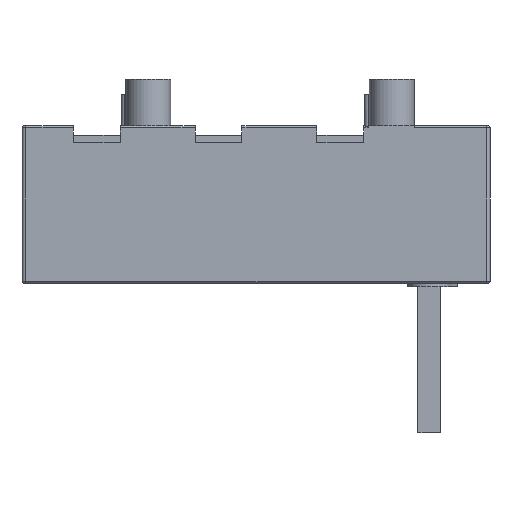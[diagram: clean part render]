
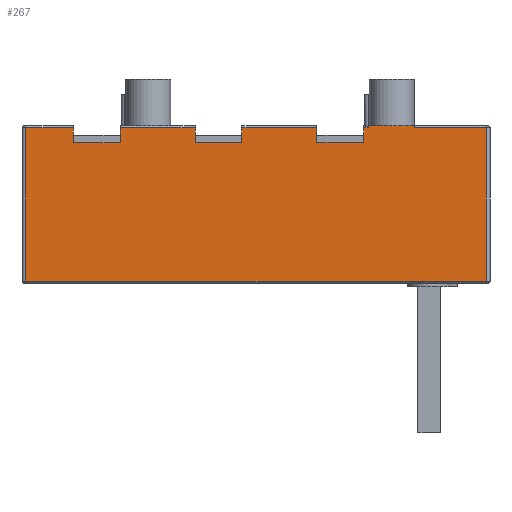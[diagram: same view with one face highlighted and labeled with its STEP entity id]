
A CAD part, front view. The second image highlights one B-rep face of the part: STEP entity #267.
In plain terms, the highlighted planar face has unit normal (0, -1, 0).
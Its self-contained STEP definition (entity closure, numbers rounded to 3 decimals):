
#267=ADVANCED_FACE('',(#575),#467,.T.);
#467=PLANE('',#3609);
#575=FACE_OUTER_BOUND('',#712,.T.);
#712=EDGE_LOOP('',(#1195,#1196,#1197,#1198,#1199,#1200,#1201,#1202,#1203,
#1204,#1205,#1206,#1207,#1208,#1209,#1210,#1211,#1212,#1213,#1214,#1215,
#1216,#1217,#1218,#1219,#1220,#1221,#1222));
#1195=ORIENTED_EDGE('',*,*,#2507,.T.);
#1196=ORIENTED_EDGE('',*,*,#2508,.T.);
#1197=ORIENTED_EDGE('',*,*,#2476,.T.);
#1198=ORIENTED_EDGE('',*,*,#2509,.T.);
#1199=ORIENTED_EDGE('',*,*,#2510,.F.);
#1200=ORIENTED_EDGE('',*,*,#2511,.F.);
#1201=ORIENTED_EDGE('',*,*,#2512,.F.);
#1202=ORIENTED_EDGE('',*,*,#2513,.F.);
#1203=ORIENTED_EDGE('',*,*,#2514,.T.);
#1204=ORIENTED_EDGE('',*,*,#2515,.T.);
#1205=ORIENTED_EDGE('',*,*,#2516,.F.);
#1206=ORIENTED_EDGE('',*,*,#2517,.F.);
#1207=ORIENTED_EDGE('',*,*,#2518,.F.);
#1208=ORIENTED_EDGE('',*,*,#2519,.F.);
#1209=ORIENTED_EDGE('',*,*,#2520,.T.);
#1210=ORIENTED_EDGE('',*,*,#2521,.T.);
#1211=ORIENTED_EDGE('',*,*,#2522,.F.);
#1212=ORIENTED_EDGE('',*,*,#2523,.T.);
#1213=ORIENTED_EDGE('',*,*,#2524,.T.);
#1214=ORIENTED_EDGE('',*,*,#2525,.T.);
#1215=ORIENTED_EDGE('',*,*,#2526,.T.);
#1216=ORIENTED_EDGE('',*,*,#2527,.F.);
#1217=ORIENTED_EDGE('',*,*,#2528,.F.);
#1218=ORIENTED_EDGE('',*,*,#2529,.T.);
#1219=ORIENTED_EDGE('',*,*,#2530,.T.);
#1220=ORIENTED_EDGE('',*,*,#2531,.T.);
#1221=ORIENTED_EDGE('',*,*,#2478,.F.);
#1222=ORIENTED_EDGE('',*,*,#2532,.T.);
#2138=VERTEX_POINT('',#5028);
#2142=VERTEX_POINT('',#5036);
#2143=VERTEX_POINT('',#5040);
#2145=VERTEX_POINT('',#5043);
#2171=VERTEX_POINT('',#5104);
#2172=VERTEX_POINT('',#5105);
#2173=VERTEX_POINT('',#5108);
#2174=VERTEX_POINT('',#5110);
#2175=VERTEX_POINT('',#5112);
#2176=VERTEX_POINT('',#5114);
#2177=VERTEX_POINT('',#5116);
#2178=VERTEX_POINT('',#5118);
#2179=VERTEX_POINT('',#5120);
#2180=VERTEX_POINT('',#5122);
#2181=VERTEX_POINT('',#5124);
#2182=VERTEX_POINT('',#5126);
#2183=VERTEX_POINT('',#5128);
#2184=VERTEX_POINT('',#5130);
#2185=VERTEX_POINT('',#5132);
#2186=VERTEX_POINT('',#5134);
#2187=VERTEX_POINT('',#5136);
#2188=VERTEX_POINT('',#5138);
#2189=VERTEX_POINT('',#5140);
#2190=VERTEX_POINT('',#5142);
#2191=VERTEX_POINT('',#5144);
#2192=VERTEX_POINT('',#5146);
#2193=VERTEX_POINT('',#5148);
#2194=VERTEX_POINT('',#5150);
#2476=EDGE_CURVE('',#2138,#2142,#2964,.T.);
#2478=EDGE_CURVE('',#2143,#2145,#2966,.T.);
#2507=EDGE_CURVE('',#2171,#2172,#2987,.T.);
#2508=EDGE_CURVE('',#2172,#2138,#2988,.T.);
#2509=EDGE_CURVE('',#2142,#2173,#2989,.T.);
#2510=EDGE_CURVE('',#2174,#2173,#2990,.T.);
#2511=EDGE_CURVE('',#2175,#2174,#2991,.T.);
#2512=EDGE_CURVE('',#2176,#2175,#2992,.T.);
#2513=EDGE_CURVE('',#2177,#2176,#2993,.T.);
#2514=EDGE_CURVE('',#2177,#2178,#2994,.T.);
#2515=EDGE_CURVE('',#2178,#2179,#2995,.T.);
#2516=EDGE_CURVE('',#2180,#2179,#2996,.T.);
#2517=EDGE_CURVE('',#2181,#2180,#2997,.T.);
#2518=EDGE_CURVE('',#2182,#2181,#2998,.T.);
#2519=EDGE_CURVE('',#2183,#2182,#2999,.T.);
#2520=EDGE_CURVE('',#2183,#2184,#3000,.T.);
#2521=EDGE_CURVE('',#2184,#2185,#3001,.T.);
#2522=EDGE_CURVE('',#2186,#2185,#3002,.T.);
#2523=EDGE_CURVE('',#2186,#2187,#3003,.T.);
#2524=EDGE_CURVE('',#2187,#2188,#3004,.T.);
#2525=EDGE_CURVE('',#2188,#2189,#3005,.T.);
#2526=EDGE_CURVE('',#2189,#2190,#3006,.T.);
#2527=EDGE_CURVE('',#2191,#2190,#3007,.T.);
#2528=EDGE_CURVE('',#2192,#2191,#3008,.T.);
#2529=EDGE_CURVE('',#2192,#2193,#3009,.T.);
#2530=EDGE_CURVE('',#2193,#2194,#3010,.T.);
#2531=EDGE_CURVE('',#2194,#2145,#3011,.T.);
#2532=EDGE_CURVE('',#2143,#2171,#3012,.T.);
#2964=LINE('',#5037,#3270);
#2966=LINE('',#5042,#3272);
#2987=LINE('',#5103,#3293);
#2988=LINE('',#5106,#3294);
#2989=LINE('',#5107,#3295);
#2990=LINE('',#5109,#3296);
#2991=LINE('',#5111,#3297);
#2992=LINE('',#5113,#3298);
#2993=LINE('',#5115,#3299);
#2994=LINE('',#5117,#3300);
#2995=LINE('',#5119,#3301);
#2996=LINE('',#5121,#3302);
#2997=LINE('',#5123,#3303);
#2998=LINE('',#5125,#3304);
#2999=LINE('',#5127,#3305);
#3000=LINE('',#5129,#3306);
#3001=LINE('',#5131,#3307);
#3002=LINE('',#5133,#3308);
#3003=LINE('',#5135,#3309);
#3004=LINE('',#5137,#3310);
#3005=LINE('',#5139,#3311);
#3006=LINE('',#5141,#3312);
#3007=LINE('',#5143,#3313);
#3008=LINE('',#5145,#3314);
#3009=LINE('',#5147,#3315);
#3010=LINE('',#5149,#3316);
#3011=LINE('',#5151,#3317);
#3012=LINE('',#5152,#3318);
#3270=VECTOR('',#3975,1.);
#3272=VECTOR('',#3979,1.);
#3293=VECTOR('',#4028,1.);
#3294=VECTOR('',#4029,1.);
#3295=VECTOR('',#4030,1.);
#3296=VECTOR('',#4031,1.);
#3297=VECTOR('',#4032,1.);
#3298=VECTOR('',#4033,1.);
#3299=VECTOR('',#4034,1.);
#3300=VECTOR('',#4035,1.);
#3301=VECTOR('',#4036,1.);
#3302=VECTOR('',#4037,1.);
#3303=VECTOR('',#4038,1.);
#3304=VECTOR('',#4039,1.);
#3305=VECTOR('',#4040,1.);
#3306=VECTOR('',#4041,1.);
#3307=VECTOR('',#4042,1.);
#3308=VECTOR('',#4043,1.);
#3309=VECTOR('',#4044,1.);
#3310=VECTOR('',#4045,1.);
#3311=VECTOR('',#4046,1.);
#3312=VECTOR('',#4047,1.);
#3313=VECTOR('',#4048,1.);
#3314=VECTOR('',#4049,1.);
#3315=VECTOR('',#4050,1.);
#3316=VECTOR('',#4051,1.);
#3317=VECTOR('',#4052,1.);
#3318=VECTOR('',#4053,1.);
#3609=AXIS2_PLACEMENT_3D('',#5153,#4054,#4055);
#3975=DIRECTION('',(0.,0.,1.));
#3979=DIRECTION('',(0.,0.,1.));
#4028=DIRECTION('',(-1.,0.,0.));
#4029=DIRECTION('',(0.,0.,1.));
#4030=DIRECTION('',(-1.,0.,0.));
#4031=DIRECTION('',(0.,0.,1.));
#4032=DIRECTION('',(0.,0.,1.));
#4033=DIRECTION('',(1.,0.,0.));
#4034=DIRECTION('',(0.,0.,-1.));
#4035=DIRECTION('',(0.,0.,1.));
#4036=DIRECTION('',(-1.,0.,0.));
#4037=DIRECTION('',(0.,0.,1.));
#4038=DIRECTION('',(0.,0.,1.));
#4039=DIRECTION('',(1.,0.,0.));
#4040=DIRECTION('',(0.,0.,-1.));
#4041=DIRECTION('',(0.,0.,1.));
#4042=DIRECTION('',(-1.,0.,0.));
#4043=DIRECTION('',(0.,0.,1.));
#4044=DIRECTION('',(1.,0.,0.));
#4045=DIRECTION('',(0.,0.,1.));
#4046=DIRECTION('',(-1.,0.,0.));
#4047=DIRECTION('',(0.,0.,1.));
#4048=DIRECTION('',(1.,0.,0.));
#4049=DIRECTION('',(0.,0.,-1.));
#4050=DIRECTION('',(-1.,0.,0.));
#4051=DIRECTION('',(0.,0.,-1.));
#4052=DIRECTION('',(-1.,0.,0.));
#4053=DIRECTION('',(0.,0.,-1.));
#4054=DIRECTION('',(0.,-1.,0.));
#4055=DIRECTION('',(1.,0.,0.));
#5028=CARTESIAN_POINT('',(-40.,-52.5,-5.));
#5036=CARTESIAN_POINT('',(-40.,-52.5,-1.));
#5037=CARTESIAN_POINT('',(-40.,-52.5,-9.));
#5040=CARTESIAN_POINT('',(-15.,-52.5,-5.));
#5042=CARTESIAN_POINT('',(-15.,-52.5,-9.));
#5043=CARTESIAN_POINT('',(-15.,-52.5,-1.));
#5103=CARTESIAN_POINT('',(-40.,-52.5,-9.));
#5104=CARTESIAN_POINT('',(-15.,-52.5,-9.));
#5105=CARTESIAN_POINT('',(-40.,-52.5,-9.));
#5106=CARTESIAN_POINT('',(-40.,-52.5,-9.));
#5107=CARTESIAN_POINT('',(-195.5,-52.5,-1.));
#5108=CARTESIAN_POINT('',(-80.,-52.5,-1.));
#5109=CARTESIAN_POINT('',(-80.,-52.5,-9.));
#5110=CARTESIAN_POINT('',(-80.,-52.5,-5.));
#5111=CARTESIAN_POINT('',(-80.,-52.5,-9.));
#5112=CARTESIAN_POINT('',(-80.,-52.5,-9.));
#5113=CARTESIAN_POINT('',(-105.,-52.5,-9.));
#5114=CARTESIAN_POINT('',(-105.,-52.5,-9.));
#5115=CARTESIAN_POINT('',(-105.,-52.5,-9.));
#5116=CARTESIAN_POINT('',(-105.,-52.5,-5.));
#5117=CARTESIAN_POINT('',(-105.,-52.5,-9.));
#5118=CARTESIAN_POINT('',(-105.,-52.5,-1.));
#5119=CARTESIAN_POINT('',(-195.5,-52.5,-1.));
#5120=CARTESIAN_POINT('',(-145.,-52.5,-1.));
#5121=CARTESIAN_POINT('',(-145.,-52.5,-9.));
#5122=CARTESIAN_POINT('',(-145.,-52.5,-5.));
#5123=CARTESIAN_POINT('',(-145.,-52.5,-9.));
#5124=CARTESIAN_POINT('',(-145.,-52.5,-9.));
#5125=CARTESIAN_POINT('',(-170.,-52.5,-9.));
#5126=CARTESIAN_POINT('',(-170.,-52.5,-9.));
#5127=CARTESIAN_POINT('',(-170.,-52.5,-9.));
#5128=CARTESIAN_POINT('',(-170.,-52.5,-5.));
#5129=CARTESIAN_POINT('',(-170.,-52.5,-9.));
#5130=CARTESIAN_POINT('',(-170.,-52.5,-1.));
#5131=CARTESIAN_POINT('',(-195.5,-52.5,-1.));
#5132=CARTESIAN_POINT('',(-195.5,-52.5,-1.));
#5133=CARTESIAN_POINT('',(-195.5,-52.5,-84.));
#5134=CARTESIAN_POINT('',(-195.5,-52.5,-83.));
#5135=CARTESIAN_POINT('',(-12.,-52.5,-83.));
#5136=CARTESIAN_POINT('',(50.5,-52.5,-83.));
#5137=CARTESIAN_POINT('',(50.5,-52.5,-84.));
#5138=CARTESIAN_POINT('',(50.5,-52.5,-1.));
#5139=CARTESIAN_POINT('',(12.,-52.5,-1.));
#5140=CARTESIAN_POINT('',(12.,-52.5,-1.));
#5141=CARTESIAN_POINT('',(12.,-52.5,4.));
#5142=CARTESIAN_POINT('',(12.,-52.5,0.));
#5143=CARTESIAN_POINT('',(50.5,-52.5,0.));
#5144=CARTESIAN_POINT('',(-12.,-52.5,0.));
#5145=CARTESIAN_POINT('',(-12.,-52.5,25.));
#5146=CARTESIAN_POINT('',(-12.,-52.5,17.));
#5147=CARTESIAN_POINT('',(7.5,-52.5,17.));
#5148=CARTESIAN_POINT('',(-12.5,-52.5,17.));
#5149=CARTESIAN_POINT('',(-12.5,-52.5,4.));
#5150=CARTESIAN_POINT('',(-12.5,-52.5,-1.));
#5151=CARTESIAN_POINT('',(-195.5,-52.5,-1.));
#5152=CARTESIAN_POINT('',(-15.,-52.5,-9.));
#5153=CARTESIAN_POINT('',(-12.,-52.5,4.));
